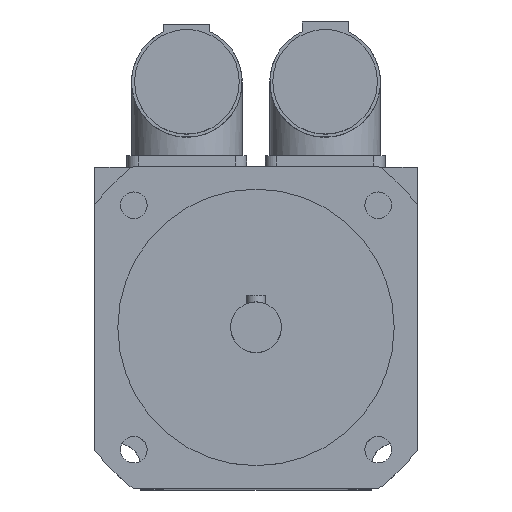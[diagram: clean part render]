
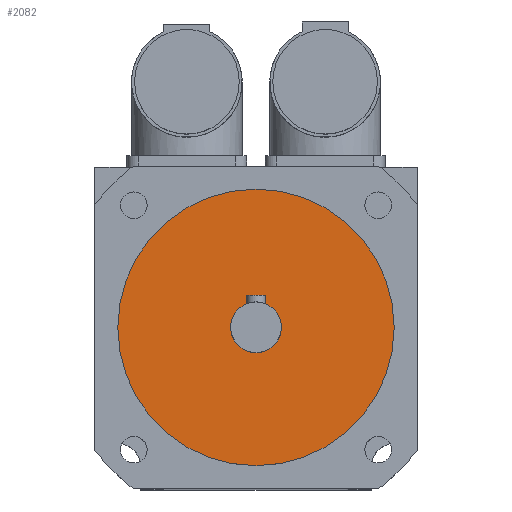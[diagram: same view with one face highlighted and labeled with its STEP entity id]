
A CAD part, top view. The second image highlights one B-rep face of the part: STEP entity #2082.
In plain terms, the highlighted planar face has unit normal (0, 0, 1).
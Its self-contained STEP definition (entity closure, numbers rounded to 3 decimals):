
#36=FACE_BOUND('',#359,.T.);
#61=CIRCLE('',#2206,5.5);
#62=CIRCLE('',#2209,30.);
#234=FACE_OUTER_BOUND('',#358,.T.);
#358=EDGE_LOOP('',(#1420));
#359=EDGE_LOOP('',(#1421));
#878=VERTEX_POINT('',#3179);
#879=VERTEX_POINT('',#3183);
#1092=EDGE_CURVE('',#878,#878,#61,.T.);
#1093=EDGE_CURVE('',#879,#879,#62,.T.);
#1420=ORIENTED_EDGE('',*,*,#1093,.T.);
#1421=ORIENTED_EDGE('',*,*,#1092,.T.);
#2019=PLANE('',#2211);
#2082=ADVANCED_FACE('',(#234,#36),#2019,.T.);
#2206=AXIS2_PLACEMENT_3D('',#3180,#2468,#2469);
#2209=AXIS2_PLACEMENT_3D('',#3184,#2474,#2475);
#2211=AXIS2_PLACEMENT_3D('',#3187,#2478,#2479);
#2468=DIRECTION('center_axis',(0.,0.,-1.));
#2469=DIRECTION('ref_axis',(-1.,0.,0.));
#2474=DIRECTION('center_axis',(0.,0.,1.));
#2475=DIRECTION('ref_axis',(-1.,0.,0.));
#2478=DIRECTION('center_axis',(0.,0.,1.));
#2479=DIRECTION('ref_axis',(1.,0.,0.));
#3179=CARTESIAN_POINT('',(5.5,0.,143.));
#3180=CARTESIAN_POINT('Origin',(0.,0.,143.));
#3183=CARTESIAN_POINT('',(30.,0.,143.));
#3184=CARTESIAN_POINT('Origin',(0.,0.,143.));
#3187=CARTESIAN_POINT('Origin',(0.,0.,
143.));
